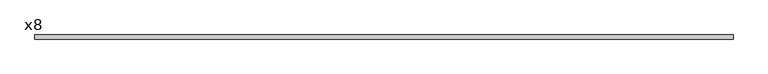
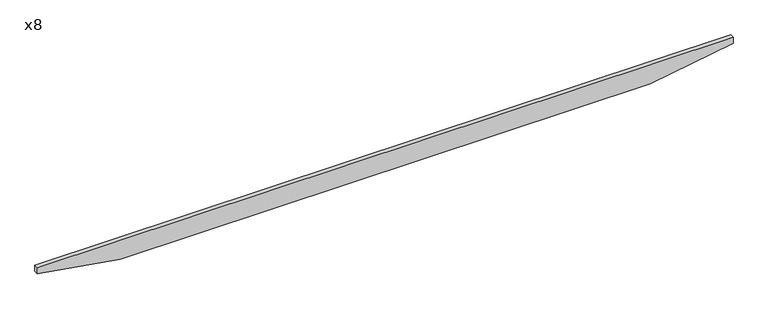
"""IFC4 building model written with IfcOpenShell, lengths in millimetres: beam geometry, Notched Beam : x8."""

from ifc_helpers import new_model, si_unit, frame, origin, place, context, project, spatial, polyline, outline, extrude, source, transform, mapped, element, save


def x8_c0474165(model_context):
    return source(origin(), model_context, "Body", "SweptSolid", [
        extrude(outline(polyline([(92.075, -3200.4), (34.925, -3200.4), (-92.075, -2438.4), (-92.075, 2438.4), (34.925, 3200.4), (92.075, 3200.4), (92.075, -3200.4)])), frame((0.0, -19.05, 0.0), z_axis=(0.0, 1.0, 0.0), x_axis=(0.0, 0.0, 1.0)), (0.0, 0.0, 1.0), 38.1),
    ])


if __name__ == "__main__":
    model = new_model("IFC4")
    model_context = context("Model", 3, world=origin())
    ifc_project = project(units=[si_unit("LENGTHUNIT", "METRE", prefix="MILLI")], contexts=[model_context])
    site = spatial("IfcSite", under=ifc_project)
    building = spatial("IfcBuilding", under=site)
    placement = place(None, origin())
    x8_shape = x8_c0474165(model_context)
    element("IfcBeam", 1, ObjectType="Notched Beam : x8", at=placement, inside=building, context=model_context, shape_type="MappedRepresentation", body=[
        mapped(x8_shape, transform((0.0, 0.0, 0.0), x_axis=(1.0, 0.0, 0.0), y_axis=(0.0, 1.0, 0.0), z_axis=(0.0, 0.0, 1.0))),
    ])
    save(model, "model.ifc")
